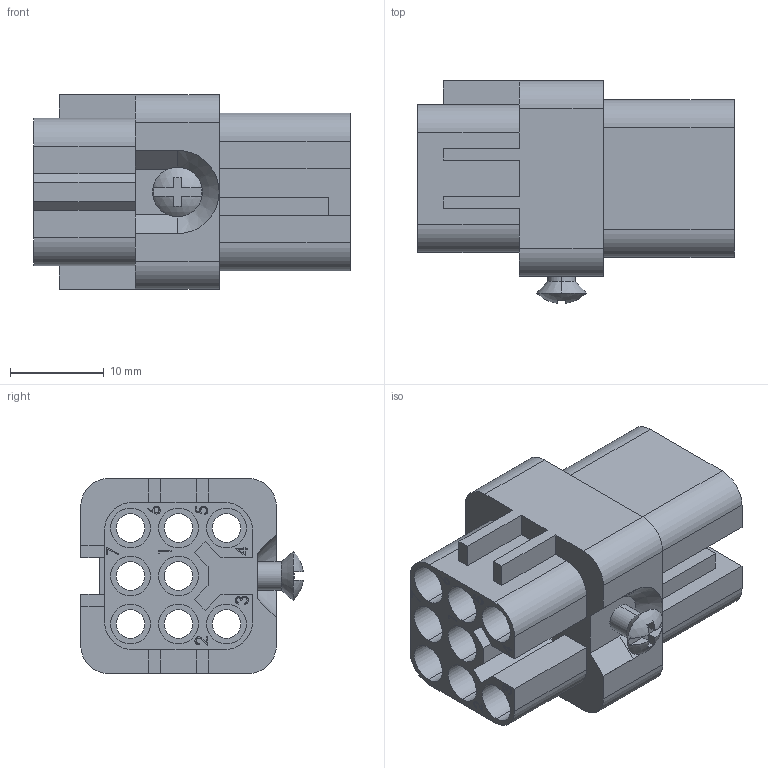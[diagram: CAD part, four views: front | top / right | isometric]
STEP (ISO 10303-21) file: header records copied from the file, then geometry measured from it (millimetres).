
FILE_DESCRIPTION (( 'STEP AP214' ), '1' );
FILE_NAME ('CDF-07.STEP', '2006-07-05T19:34:13', ( 'Mencom User' ), ( 'Mencom Corporation' ), 'SwSTEP 2.0', 'SolidWorks 2006104', '' );
FILE_SCHEMA (( 'AUTOMOTIVE_DESIGN' ));
Length unit declared in the file: inch
Products named in the file (1): CDF-07
Bounding box: 33.88 x 23.78 x 20.83 mm (x, y, z)
Volume: 6999.1 mm3; surface area: 6673 mm2
Topology: 1 solids, 1 shells, 587 faces, 1562 edges, 1040 vertices
Faces by surface type: plane 353, bspline 176, cylinder 53, cone 3, sphere 2
Entity records: 41661 total; most frequent: CARTESIAN_POINT 20422, ORIENTED_EDGE 3124, DIRECTION 2161, EDGE_CURVE 1562, VECTOR 1083, LINE 1083, VERTEX_POINT 1040, EDGE_LOOP 666
